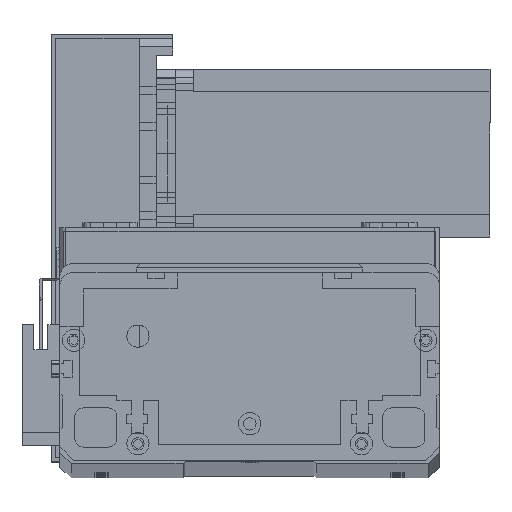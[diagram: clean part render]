
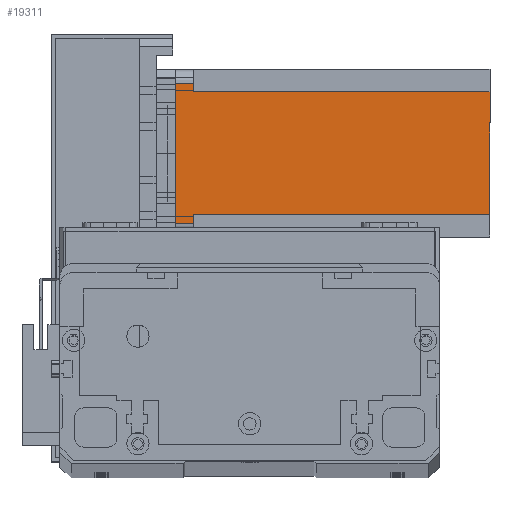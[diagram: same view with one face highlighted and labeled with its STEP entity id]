
A CAD part, top view. The second image highlights one B-rep face of the part: STEP entity #19311.
In plain terms, the highlighted planar face has unit normal (0, 0, 1) as drawn and (0, -1, 0) by its records, which use the part's own axes.
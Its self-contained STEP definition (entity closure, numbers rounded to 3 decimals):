
#977 = EDGE_CURVE ( 'NONE', #24031, #24597, #19142, .T. ) ;
#1349 = EDGE_CURVE ( 'NONE', #24597, #24876, #22106, .T. ) ;
#1358 = CARTESIAN_POINT ( 'NONE',  ( 55., 0., -6.5 ) ) ;
#1645 = CARTESIAN_POINT ( 'NONE',  ( 8., 0., -6.5 ) ) ;
#1806 = VERTEX_POINT ( 'NONE', #12741 ) ;
#1944 = EDGE_CURVE ( 'NONE', #13918, #5500, #23887, .T. ) ;
#2036 = VECTOR ( 'NONE', #19227, 1000. ) ;
#2156 = EDGE_CURVE ( 'NONE', #26400, #5500, #12213, .T. ) ;
#2600 = EDGE_CURVE ( 'NONE', #1806, #26400, #7273, .T. ) ;
#3163 = CARTESIAN_POINT ( 'NONE',  ( 8., 0., -6.5 ) ) ;
#3268 = DIRECTION ( 'NONE',  ( -1., 0., 0. ) ) ;
#3588 = EDGE_CURVE ( 'NONE', #1806, #8984, #14830, .T. ) ;
#3655 = DIRECTION ( 'NONE',  ( 1., 0., 0. ) ) ;
#3815 = EDGE_CURVE ( 'NONE', #24031, #8984, #10329, .T. ) ;
#4286 = ORIENTED_EDGE ( 'NONE', *, *, #3815, .F. ) ;
#5408 = ORIENTED_EDGE ( 'NONE', *, *, #3588, .T. ) ;
#5500 = VERTEX_POINT ( 'NONE', #20205 ) ;
#6345 = ORIENTED_EDGE ( 'NONE', *, *, #1349, .T. ) ;
#6543 = VECTOR ( 'NONE', #3268, 1000. ) ;
#6826 = DIRECTION ( 'NONE',  ( 0., 0., -1. ) ) ;
#6872 = PLANE ( 'NONE',  #11824 ) ;
#7273 = LINE ( 'NONE', #26669, #20211 ) ;
#7671 = ORIENTED_EDGE ( 'NONE', *, *, #2156, .F. ) ;
#8439 = VECTOR ( 'NONE', #3655, 1000. ) ;
#8614 = CARTESIAN_POINT ( 'NONE',  ( 0., 0., -112.5 ) ) ;
#8984 = VERTEX_POINT ( 'NONE', #25389 ) ;
#9552 = VECTOR ( 'NONE', #6826, 1000. ) ;
#10181 = ORIENTED_EDGE ( 'NONE', *, *, #12977, .F. ) ;
#10329 = LINE ( 'NONE', #21618, #9552 ) ;
#11052 = FACE_OUTER_BOUND ( 'NONE', #20745, .T. ) ;
#11124 = VECTOR ( 'NONE', #17320, 1000. ) ;
#11728 = DIRECTION ( 'NONE',  ( 0., 0., -1. ) ) ;
#11824 = AXIS2_PLACEMENT_3D ( 'NONE', #16487, #26041, #11728 ) ;
#12204 = ORIENTED_EDGE ( 'NONE', *, *, #2600, .F. ) ;
#12213 = LINE ( 'NONE', #3163, #6543 ) ;
#12692 = VECTOR ( 'NONE', #15238, 1000. ) ;
#12741 = CARTESIAN_POINT ( 'NONE',  ( 8., 0., -112.5 ) ) ;
#12977 = EDGE_CURVE ( 'NONE', #13918, #24876, #15050, .T. ) ;
#13918 = VERTEX_POINT ( 'NONE', #26243 ) ;
#13950 = ORIENTED_EDGE ( 'NONE', *, *, #1944, .T. ) ;
#14653 = ORIENTED_EDGE ( 'NONE', *, *, #977, .T. ) ;
#14830 = LINE ( 'NONE', #8614, #8439 ) ;
#15050 = LINE ( 'NONE', #23661, #21501 ) ;
#15238 = DIRECTION ( 'NONE',  ( 1., 0., 0. ) ) ;
#16002 = CARTESIAN_POINT ( 'NONE',  ( 52., 0., -6.5 ) ) ;
#16487 = CARTESIAN_POINT ( 'NONE',  ( 0., 0., -112.5 ) ) ;
#17099 = CARTESIAN_POINT ( 'NONE',  ( 5., 0., -112.5 ) ) ;
#17320 = DIRECTION ( 'NONE',  ( 0., 0., -1. ) ) ;
#17650 = CARTESIAN_POINT ( 'NONE',  ( 55., 0., -112.5 ) ) ;
#18621 = CARTESIAN_POINT ( 'NONE',  ( 52., 0., -6.5 ) ) ;
#19142 = LINE ( 'NONE', #18621, #12692 ) ;
#19227 = DIRECTION ( 'NONE',  ( 0., 0., 1. ) ) ;
#19311 = ADVANCED_FACE ( 'NONE', ( #11052 ), #6872, .T. ) ;
#19366 = CARTESIAN_POINT ( 'NONE',  ( 55., 0., 0. ) ) ;
#20205 = CARTESIAN_POINT ( 'NONE',  ( 5., 0., -6.5 ) ) ;
#20211 = VECTOR ( 'NONE', #25367, 1000. ) ;
#20745 = EDGE_LOOP ( 'NONE', ( #14653, #6345, #10181, #13950, #7671, #12204, #5408, #4286 ) ) ;
#21501 = VECTOR ( 'NONE', #23541, 1000. ) ;
#21618 = CARTESIAN_POINT ( 'NONE',  ( 52., 0., -112.5 ) ) ;
#22106 = LINE ( 'NONE', #17650, #2036 ) ;
#23541 = DIRECTION ( 'NONE',  ( 1., 0., 0. ) ) ;
#23661 = CARTESIAN_POINT ( 'NONE',  ( 0., 0., 0. ) ) ;
#23887 = LINE ( 'NONE', #17099, #11124 ) ;
#24031 = VERTEX_POINT ( 'NONE', #16002 ) ;
#24597 = VERTEX_POINT ( 'NONE', #1358 ) ;
#24876 = VERTEX_POINT ( 'NONE', #19366 ) ;
#25367 = DIRECTION ( 'NONE',  ( 0., 0., 1. ) ) ;
#25389 = CARTESIAN_POINT ( 'NONE',  ( 52., 0., -112.5 ) ) ;
#26041 = DIRECTION ( 'NONE',  ( 0., -1., 0. ) ) ;
#26243 = CARTESIAN_POINT ( 'NONE',  ( 5., 0., 0. ) ) ;
#26400 = VERTEX_POINT ( 'NONE', #1645 ) ;
#26669 = CARTESIAN_POINT ( 'NONE',  ( 8., 0., -112.5 ) ) ;
